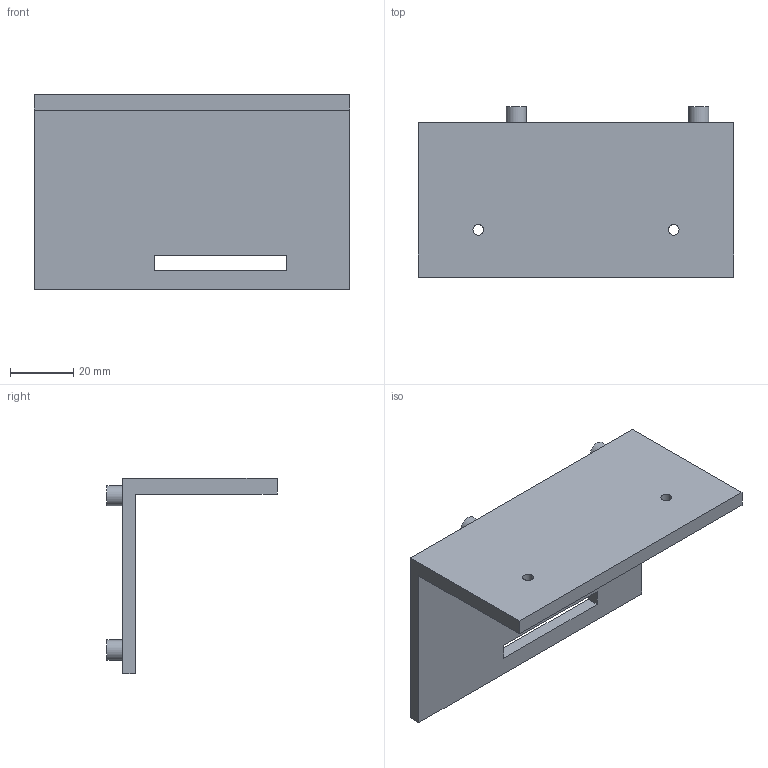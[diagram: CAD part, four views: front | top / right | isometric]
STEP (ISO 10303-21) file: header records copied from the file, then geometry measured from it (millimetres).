
FILE_DESCRIPTION(('Open CASCADE Model'),'2;1');
FILE_NAME('Open CASCADE Shape Model','2026-10-05T16:07:18',('Author'),( 'Open CASCADE'),'Open CASCADE STEP processor 7.9','Open CASCADE 7.9' ,'Unknown');
FILE_SCHEMA(('AUTOMOTIVE_DESIGN { 1 0 10303 214 1 1 1 1 }'));
Length unit declared in the file: millimetre
Products named in the file (1): Open CASCADE STEP translator 7.9 1
Bounding box: 100 x 54 x 62 mm (x, y, z)
Volume: 46779.1 mm3; surface area: 23858.5 mm2
Topology: 1 solids, 1 shells, 44 faces, 96 edges, 64 vertices
Faces by surface type: plane 34, cylinder 10
Full cylindrical faces by diameter (mm): 2.2 x4, 3.4 x2, 6.4 x4
Entity records: 2446 total; most frequent: CARTESIAN_POINT 475, DIRECTION 350, LINE 206, VECTOR 206, ORIENTED_EDGE 192, PCURVE 192, DEFINITIONAL_REPRESENTATION 192, EDGE_CURVE 96
